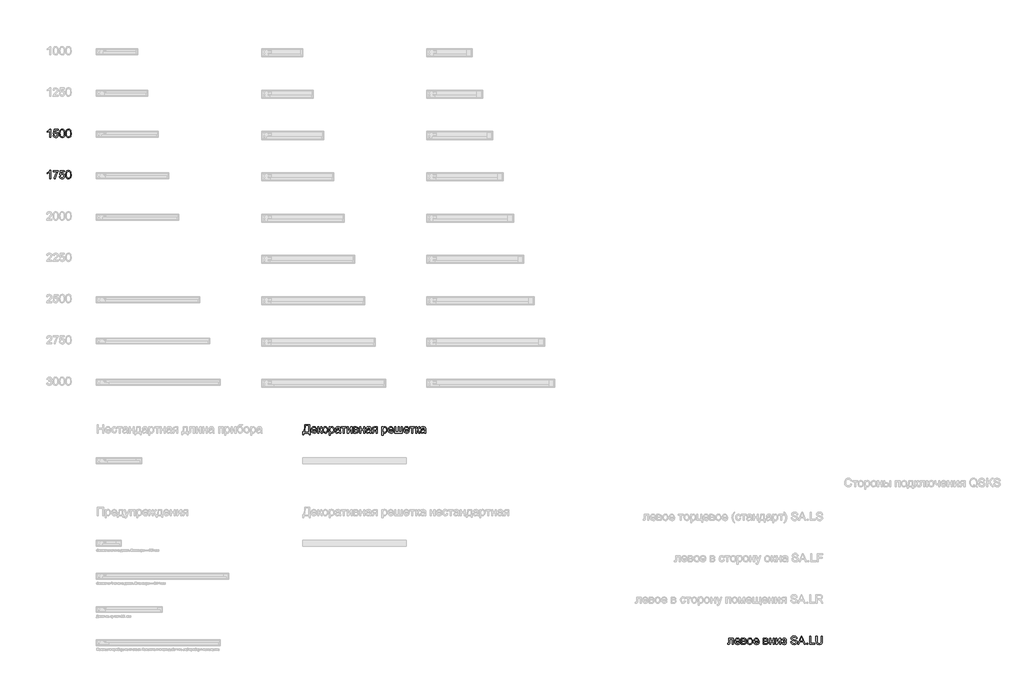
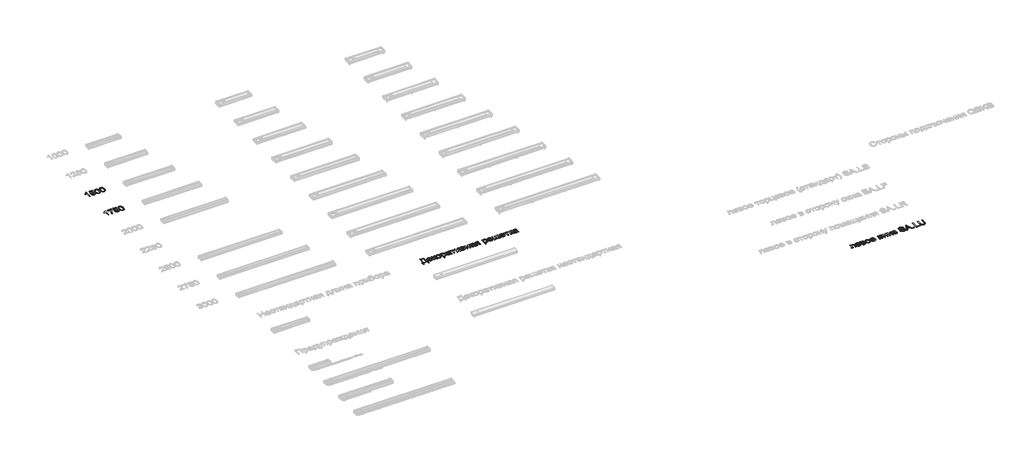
# One storey, part 4 of 17: 4 proxies.
"""IFC4 building model written with IfcOpenShell, lengths in millimetres."""

from ifc_helpers import new_model, si_unit, origin, origin_with_axes, place, context, project, spatial, polyline, outline, extrude, element, save

model = new_model("IFC4")

# Units and contexts
model_context = context("Model", 3, world=origin())
ifc_project = project(units=[si_unit("LENGTHUNIT", "METRE", prefix="MILLI")], contexts=[model_context])

# Site, building, storey
site = spatial("IfcSite", under=ifc_project)
building = spatial("IfcBuilding", under=site)
storey = spatial("IfcBuildingStorey", under=building, Name="Уровень 1", Elevation=0.0)

# Proxies
placement = place(None, origin())
element("IfcBuildingElementProxy", 1, Name="Текст модели 1", ObjectType="Текст модели 1", at=placement, inside=storey, context=model_context, shape_type="SweptSolid", body=[
    extrude(outline(polyline([(573.4509423, -453.2424702), (548.3368648, -453.2424702), (548.3368648, -296.6718931), (524.5471624, -313.6189903), (498.1087097, -326.2986564), (498.1087097, -302.558005), (534.9214347, -279.0626083), (548.3920471, -265.4877626), (557.2641345, -252.3298499), (573.4509423, -252.3298499), (573.4509423, -453.2424702)])), origin_with_axes(), (0.0, 0.0, 1.0), 2.0),
    extrude(outline(polyline([(633.0968765, -399.8750555), (658.210954, -396.7357958), (662.8217417, -411.8128262), (670.8660947, -422.6101628), (682.3072247, -429.10328), (697.1083436, -431.2676524), (715.1100359, -428.2571514), (728.5990424, -419.2256484), (737.0235401, -405.2154758), (739.831706, -387.2689658), (737.2013498, -370.3709195), (729.310281, -357.4459987), (716.097186, -349.2422302), (697.5007511, -346.5076407), (675.4523569, -350.8731737), (661.3502137, -362.2039392), (636.2361362, -359.0646795), (658.210954, -255.4691096), (755.5280045, -255.4691096), (755.5280045, -280.5831872), (678.5180402, -280.5831872), (667.7758859, -335.9126393), (685.7162645, -325.0233322), (704.5150345, -321.3935632), (727.9797744, -325.8939863), (747.459126, -339.3952555), (760.5741192, -359.9721217), (764.9457836, -385.6993359), (761.0094462, -410.8134135), (749.2004342, -432.297722), (738.7648482, -442.8344755), (726.5879542, -450.360728), (712.669752, -454.8764794), (697.0102418, -456.3817299), (672.343754, -452.5128376), (652.6927241, -440.9061607), (639.2221117, -422.9105997), (633.0968765, -399.8750555)])), origin_with_axes(), (0.0, 0.0, 1.0), 2.0),
    extrude(outline(polyline([(786.9206014, -354.4048409), (788.7661427, -322.2458231), (794.3027668, -296.5983167), (803.4752912, -277.0699141), (816.2285337, -263.2682079), (832.6544648, -255.0644394), (852.8450549, -252.3298499), (868.3206242, -253.9485307), (882.1775127, -258.8045731), (893.7657955, -266.7079046), (902.4355479, -277.468453), (914.2077717, -307.1933182), (918.7695085, -354.4048409), (916.9423612, -386.3799176), (911.4609195, -411.9661104), (902.3435774, -431.5129071), (889.608729, -445.3697956), (873.1460097, -453.6287463), (852.8450549, -456.3817299), (826.7499587, -451.599264), (806.9333819, -437.2518662), (798.1777905, -422.1227191), (791.9237965, -403.2718326), (786.9206014, -354.4048409)]), holes=[polyline([(812.0346789, -354.3557899), (814.9777349, -393.8601849), (823.8069028, -416.7240509), (836.9525527, -427.631752), (852.8450549, -431.2676524), (868.7375571, -427.6194893), (881.8832071, -416.6749999), (890.712375, -393.7988712), (893.6554309, -354.3557899), (890.8104768, -315.7404432), (882.2756145, -292.6987676), (869.1544901, -281.2576375), (852.5507493, -277.4439275), (836.8299254, -280.8039164), (824.1993102, -290.883883), (815.0758368, -315.3602985), (812.0346789, -354.3557899)])]), origin_with_axes(), (0.0, 0.0, 1.0), 2.0),
    extrude(outline(polyline([(940.7443263, -354.4048409), (942.5898677, -322.2458231), (948.1264917, -296.5983167), (957.2990161, -277.0699141), (970.0522586, -263.2682079), (986.4781897, -255.0644394), (1006.6687799, -252.3298499), (1022.1443491, -253.9485307), (1036.0012376, -258.8045731), (1047.5895204, -266.7079046), (1056.2592728, -277.468453), (1068.0314966, -307.1933182), (1072.5932334, -354.4048409), (1070.7660861, -386.3799176), (1065.2846444, -411.9661104), (1056.1673023, -431.5129071), (1043.4324539, -445.3697956), (1026.9697346, -453.6287463), (1006.6687799, -456.3817299), (980.5736837, -451.599264), (960.7571069, -437.2518662), (952.0015154, -422.1227191), (945.7475214, -403.2718326), (940.7443263, -354.4048409)]), holes=[polyline([(965.8584039, -354.3557899), (968.8014598, -393.8601849), (977.6306277, -416.7240509), (990.7762777, -427.631752), (1006.6687799, -431.2676524), (1022.561282, -427.6194893), (1035.706932, -416.6749999), (1044.5360999, -393.7988712), (1047.4791558, -354.3557899), (1044.6342018, -315.7404432), (1036.0993395, -292.6987676), (1022.978215, -281.2576375), (1006.3744743, -277.4439275), (990.6536503, -280.8039164), (978.0230352, -290.883883), (968.8995617, -315.3602985), (965.8584039, -354.3557899)])]), origin_with_axes(), (0.0, 0.0, 1.0), 2.0),
])
element("IfcBuildingElementProxy", 2, Name="Текст модели 1", ObjectType="Текст модели 1", at=placement, inside=storey, context=model_context, shape_type="SweptSolid", body=[
    extrude(outline(polyline([(573.4509423, -1453.2424702), (548.3368648, -1453.2424702), (548.3368648, -1296.6718931), (524.5471624, -1313.6189903), (498.1087097, -1326.2986564), (498.1087097, -1302.558005), (534.9214347, -1279.0626083), (548.3920471, -1265.4877626), (557.2641345, -1252.3298499), (573.4509423, -1252.3298499), (573.4509423, -1453.2424702)])), origin_with_axes(), (0.0, 0.0, 1.0), 2.0),
    extrude(outline(polyline([(633.0968765, -1280.5831872), (633.0968765, -1255.4691096), (764.9457836, -1255.4691096), (764.9457836, -1275.7761958), (746.153145, -1299.5597668), (727.5444474, -1329.8057981), (711.130779, -1363.7551749), (698.9232282, -1398.6487822), (689.6035509, -1453.2424702), (664.4894734, -1453.2424702), (667.2056688, -1427.3558405), (674.4713382, -1396.588643), (686.0902779, -1363.9759041), (701.8662841, -1332.5526504), (720.2849093, -1304.146029), (739.831706, -1280.5831872), (633.0968765, -1280.5831872)])), origin_with_axes(), (0.0, 0.0, 1.0), 2.0),
    extrude(outline(polyline([(786.9206014, -1399.8750555), (812.0346789, -1396.7357958), (816.6454666, -1411.8128262), (824.6898196, -1422.6101628), (836.1309496, -1429.10328), (850.9320686, -1431.2676524), (868.9337609, -1428.2571514), (882.4227673, -1419.2256484), (890.847265, -1405.2154758), (893.6554309, -1387.2689658), (891.0250747, -1370.3709195), (883.1340059, -1357.4459987), (869.9209109, -1349.2422302), (851.324476, -1346.5076407), (829.2760818, -1350.8731737), (815.1739386, -1362.2039392), (790.0598611, -1359.0646795), (812.0346789, -1255.4691096), (909.3517294, -1255.4691096), (909.3517294, -1280.5831872), (832.3417651, -1280.5831872), (821.5996108, -1335.9126393), (839.5399894, -1325.0233322), (858.3387594, -1321.3935632), (881.8034993, -1325.8939863), (901.282851, -1339.3952555), (914.3978441, -1359.9721217), (918.7695085, -1385.6993359), (914.8331711, -1410.8134135), (903.0241591, -1432.297722), (892.5885731, -1442.8344755), (880.4116791, -1450.360728), (866.493477, -1454.8764794), (850.8339667, -1456.3817299), (826.1674789, -1452.5128376), (806.516449, -1440.9061607), (793.0458366, -1422.9105997), (786.9206014, -1399.8750555)])), origin_with_axes(), (0.0, 0.0, 1.0), 2.0),
    extrude(outline(polyline([(940.7443263, -1354.4048409), (942.5898677, -1322.2458231), (948.1264917, -1296.5983167), (957.2990161, -1277.0699141), (970.0522586, -1263.2682079), (986.4781897, -1255.0644394), (1006.6687799, -1252.3298499), (1022.1443491, -1253.9485307), (1036.0012376, -1258.8045731), (1047.5895204, -1266.7079046), (1056.2592728, -1277.468453), (1068.0314966, -1307.1933182), (1072.5932334, -1354.4048409), (1070.7660861, -1386.3799176), (1065.2846444, -1411.9661104), (1056.1673023, -1431.5129071), (1043.4324539, -1445.3697956), (1026.9697346, -1453.6287463), (1006.6687799, -1456.3817299), (980.5736837, -1451.599264), (960.7571069, -1437.2518662), (952.0015154, -1422.1227191), (945.7475214, -1403.2718326), (940.7443263, -1354.4048409)]), holes=[polyline([(965.8584039, -1354.3557899), (968.8014598, -1393.8601849), (977.6306277, -1416.7240509), (990.7762777, -1427.631752), (1006.6687799, -1431.2676524), (1022.561282, -1427.6194893), (1035.706932, -1416.6749999), (1044.5360999, -1393.7988712), (1047.4791558, -1354.3557899), (1044.6342018, -1315.7404432), (1036.0993395, -1292.6987676), (1022.978215, -1281.2576375), (1006.3744743, -1277.4439275), (990.6536503, -1280.8039164), (978.0230352, -1290.883883), (968.8995617, -1315.3602985), (965.8584039, -1354.3557899)])]), origin_with_axes(), (0.0, 0.0, 1.0), 2.0),
])
element("IfcBuildingElementProxy", 3, Name="Текст модели 1", ObjectType="Текст модели 1", at=placement, inside=storey, context=model_context, shape_type="SweptSolid", body=[
    extrude(outline(polyline([(6722.8213885, -7407.3298499), (6842.1132568, -7407.3298499), (6842.1132568, -7583.1283927), (6860.9488149, -7583.1283927), (6860.9488149, -7655.3313656), (6835.8347374, -7655.3313656), (6835.8347374, -7608.2424702), (6707.12509, -7608.2424702), (6707.12509, -7655.3313656), (6682.0110125, -7655.3313656), (6682.0110125, -7583.1283927), (6697.7073109, -7583.1283927), (6708.6947198, -7560.3473002), (6716.5428691, -7528.3017127), (6721.2517586, -7486.9916303), (6722.8213885, -7436.417053), (6722.8213885, -7407.3298499)]), holes=[polyline([(6816.9991792, -7432.4439275), (6747.935466, -7432.4439275), (6747.935466, -7442.5484196), (6742.834169, -7511.3668782), (6735.2803254, -7551.1349219), (6722.8213885, -7583.1283927), (6816.9991792, -7583.1283927), (6816.9991792, -7432.4439275)])]), origin_with_axes(), (0.0, 0.0, 1.0), 2.0),
    extrude(outline(polyline([(6992.5034164, -7564.2928346), (7017.1269846, -7567.4320942), (7008.2548972, -7585.9856095), (6994.0975717, -7599.8547608), (6974.9738393, -7608.4999876), (6951.2025311, -7611.3817299), (6921.7351833, -7606.4091916), (6899.0613896, -7591.4915767), (6884.6036272, -7567.5976411), (6879.7843731, -7535.6961408), (6884.6526781, -7502.7216513), (6899.2575933, -7478.0612949), (6921.6248187, -7462.6838275), (6949.780054, -7457.558005), (6977.058504, -7462.6715648), (6998.8555122, -7478.012244), (7013.1477277, -7502.6235494), (7017.9117995, -7535.548988), (7017.7646467, -7542.3180167), (6904.8984506, -7542.3180167), (6909.2455895, -7561.1167867), (6919.3439503, -7574.936887), (6933.9182087, -7583.434961), (6951.6930404, -7586.2676524), (6976.3166086, -7581.0192026), (6985.4646076, -7574.2133857), (6992.5034164, -7564.2928346)]), holes=[polyline([(6904.8984506, -7517.2039392), (6992.797722, -7517.2039392), (6989.4009449, -7503.9356619), (6982.7422808, -7494.4443064), (6968.1005774, -7485.6151385), (6949.6819522, -7482.6720826), (6932.753249, -7485.020396), (6918.7553391, -7492.0653362), (6909.0248603, -7503.0466137), (6904.8984506, -7517.2039392)])]), origin_with_axes(), (0.0, 0.0, 1.0), 2.0),
    extrude(outline(polyline([(7043.0258771, -7460.6972647), (7068.1399546, -7460.6972647), (7068.1399546, -7523.4824586), (7084.9644245, -7518.9697728), (7098.7477366, -7492.6784728), (7110.2011294, -7469.9924165), (7120.3056215, -7462.6102511), (7138.6751958, -7460.6972647), (7143.4821872, -7460.6972647), (7143.4821872, -7485.9584951), (7136.7131585, -7485.8113423), (7124.4504253, -7488.4600926), (7115.8174612, -7504.9902569), (7105.6884436, -7522.8693219), (7091.4881986, -7531.6249134), (7107.3316498, -7541.3983117), (7122.8807955, -7561.9874407), (7149.7607066, -7608.2424702), (7121.2130638, -7608.2424702), (7094.8727129, -7562.9684594), (7081.6289611, -7543.8140702), (7068.1399546, -7539.178757), (7068.1399546, -7608.2424702), (7043.0258771, -7608.2424702), (7043.0258771, -7460.6972647)])), origin_with_axes(), (0.0, 0.0, 1.0), 2.0),
    extrude(outline(polyline([(7159.1784857, -7534.4698675), (7164.6108765, -7498.8956785), (7171.401365, -7485.0725126), (7180.9080489, -7473.8919656), (7201.0434567, -7461.6414952), (7225.1519901, -7457.558005), (7251.5352606, -7462.5305433), (7272.6087675, -7477.4481582), (7286.4227364, -7501.1336274), (7291.0273927, -7532.4097283), (7288.991779, -7557.7813232), (7282.8849379, -7577.095128), (7272.884679, -7591.5590218), (7259.168812, -7602.3808838), (7242.8777709, -7609.1315184), (7225.1519901, -7611.3817299), (7198.4498887, -7606.4275857), (7177.4009072, -7591.5651531), (7163.734091, -7567.3830433), (7159.1784857, -7534.4698675)]), holes=[polyline([(7184.2925632, -7534.4208165), (7187.198831, -7557.1497925), (7195.9176343, -7573.3427316), (7209.0387588, -7583.0364222), (7225.1519901, -7586.2676524), (7241.1916451, -7583.0180281), (7254.2882442, -7573.2691552), (7263.0070474, -7556.8616183), (7265.9133152, -7533.6360016), (7262.9886533, -7511.5692133), (7254.2146678, -7495.5970033), (7241.0996746, -7485.9033128), (7225.1519901, -7482.6720826), (7209.0387588, -7485.89105), (7195.9176343, -7495.5479524), (7187.198831, -7511.7041033), (7184.2925632, -7534.4208165)])]), origin_with_axes(), (0.0, 0.0, 1.0), 2.0),
    extrude(outline(polyline([(7319.28073, -7664.7491447), (7319.28073, -7460.6972647), (7344.3948075, -7460.6972647), (7344.3948075, -7485.3208329), (7361.7588377, -7464.498712), (7372.451941, -7459.2931818), (7385.2051835, -7457.558005), (7402.189069, -7459.9860262), (7417.0392388, -7467.2700897), (7429.1302937, -7478.9687371), (7437.8368343, -7494.6405101), (7443.0975468, -7513.1449745), (7444.8511177, -7533.341696), (7442.8706863, -7554.8198732), (7436.929392, -7574.0294447), (7427.2173074, -7589.9955233), (7413.9245046, -7601.7432217), (7398.442804, -7608.9721029), (7382.1640257, -7611.3817299), (7370.6186624, -7609.7691805), (7360.3118352, -7604.9315323), (7344.3948075, -7588.6220972), (7344.3948075, -7664.7491447), (7319.28073, -7664.7491447)]), holes=[polyline([(7344.3948075, -7535.6470899), (7347.1110029, -7558.161468), (7355.2595891, -7573.9068174), (7367.283199, -7583.1774436), (7381.6244654, -7586.2676524), (7396.1987238, -7583.067079), (7408.528902, -7573.465359), (7416.9350056, -7557.1436611), (7419.7370401, -7533.7831544), (7417.0024506, -7511.3914037), (7408.7986821, -7495.4253251), (7396.7934664, -7485.8603932), (7382.654535, -7482.6720826), (7368.4604214, -7486.0627283), (7355.9953531, -7496.2346654), (7347.2949439, -7512.869063), (7344.3948075, -7535.6470899)])]), origin_with_axes(), (0.0, 0.0, 1.0), 2.0),
    extrude(outline(polyline([(7567.2822457, -7589.4069121), (7542.9284576, -7606.4275857), (7516.024021, -7611.3817299), (7495.0363532, -7608.4018858), (7479.5546525, -7599.4623533), (7470.0081148, -7585.8875077), (7466.8259355, -7569.0017241), (7471.6329269, -7549.1360964), (7484.2635421, -7534.7151221), (7501.8483014, -7526.4745655), (7523.5778646, -7522.6976436), (7567.1350929, -7514.0646795), (7567.2822457, -7508.4728732), (7565.5532003, -7497.264735), (7560.3660641, -7489.9316206), (7548.7655186, -7484.4869671), (7532.6032362, -7482.6720826), (7517.6427018, -7483.8799618), (7507.1948531, -7487.5035994), (7500.0702051, -7494.2051831), (7495.0792727, -7504.6469004), (7469.9651952, -7501.5076407), (7480.8299768, -7476.9821744), (7490.0883403, -7468.7293549), (7502.7066928, -7462.6102511), (7535.8405978, -7457.558005), (7566.2767015, -7462.0216399), (7583.4690534, -7473.229778), (7591.1700499, -7490.2749771), (7592.3963232, -7512.249795), (7592.3963232, -7543.4952391), (7593.6716474, -7587.1260437), (7598.6748426, -7608.2424702), (7573.560765, -7608.2424702), (7567.2822457, -7589.4069121)]), holes=[polyline([(7567.2822457, -7539.178757), (7526.7661753, -7546.8797535), (7505.1592394, -7550.9509809), (7495.3735783, -7557.5728568), (7491.940013, -7567.2358905), (7493.8100799, -7574.703895), (7499.4202803, -7580.8229989), (7508.647987, -7584.906489), (7521.3705727, -7586.2676524), (7534.8595791, -7584.7654676), (7546.7789558, -7580.2589131), (7563.1619673, -7565.7153116), (7567.1350929, -7546.2911423), (7567.2822457, -7539.178757)])]), origin_with_axes(), (0.0, 0.0, 1.0), 2.0),
    extrude(outline(polyline([(7614.371141, -7460.6972647), (7733.6630093, -7460.6972647), (7733.6630093, -7485.8113423), (7686.574114, -7485.8113423), (7686.574114, -7608.2424702), (7661.4600364, -7608.2424702), (7661.4600364, -7485.8113423), (7614.371141, -7485.8113423), (7614.371141, -7460.6972647)])), origin_with_axes(), (0.0, 0.0, 1.0), 2.0),
    extrude(outline(polyline([(7755.6378272, -7460.6972647), (7780.7519047, -7460.6972647), (7780.7519047, -7573.2201043), (7842.457978, -7460.6972647), (7874.9296955, -7460.6972647), (7874.9296955, -7608.2424702), (7849.815618, -7608.2424702), (7849.815618, -7496.4063437), (7788.5019521, -7608.2424702), (7755.6378272, -7608.2424702), (7755.6378272, -7460.6972647)])), origin_with_axes(), (0.0, 0.0, 1.0), 2.0),
    extrude(outline(polyline([(7912.6008118, -7460.6972647), (7967.9302639, -7460.6972647), (7998.2682657, -7464.0572536), (8015.3379903, -7476.3690377), (8020.6906733, -7486.2098811), (8022.474901, -7497.8288208), (8018.1584189, -7515.2664273), (8005.1599218, -7527.7008388), (8014.4550735, -7532.9186317), (8022.0334426, -7541.3124726), (8027.073426, -7552.2201737), (8028.7534204, -7564.9795476), (8024.498252, -7584.1216741), (8014.3814971, -7597.5984179), (7998.3663676, -7605.5814571), (7976.4160752, -7608.2424702), (7912.6008118, -7608.2424702), (7912.6008118, -7460.6972647)]), holes=[polyline([(7937.7148893, -7517.2039392), (7962.5346613, -7517.2039392), (7983.0134257, -7515.9286149), (7992.970765, -7510.8273179), (7997.3608235, -7501.6057426), (7995.4355744, -7494.1132126), (7989.6598271, -7489.2939585), (7963.3194762, -7485.8113423), (7937.7148893, -7485.8113423), (7937.7148893, -7517.2039392)]), polyline([(7937.7148893, -7583.1283927), (7968.5188751, -7583.1283927), (7985.3065568, -7581.9940899), (7995.8402446, -7578.5911814), (8001.4933646, -7572.4046326), (8003.6393429, -7562.9194084), (7999.3473863, -7550.8283535), (7988.1637736, -7543.7895447), (7966.0663284, -7542.3180167), (7937.7148893, -7542.3180167), (7937.7148893, -7583.1283927)])]), origin_with_axes(), (0.0, 0.0, 1.0), 2.0),
    extrude(outline(polyline([(8060.1460173, -7460.6972647), (8085.2600949, -7460.6972647), (8085.2600949, -7517.2039392), (8151.1845484, -7517.2039392), (8151.1845484, -7460.6972647), (8176.2986259, -7460.6972647), (8176.2986259, -7608.2424702), (8151.1845484, -7608.2424702), (8151.1845484, -7542.3180167), (8085.2600949, -7542.3180167), (8085.2600949, -7608.2424702), (8060.1460173, -7608.2424702), (8060.1460173, -7460.6972647)])), origin_with_axes(), (0.0, 0.0, 1.0), 2.0),
    extrude(outline(polyline([(8308.147533, -7589.4069121), (8283.7937449, -7606.4275857), (8256.8893083, -7611.3817299), (8235.9016405, -7608.4018858), (8220.4199399, -7599.4623533), (8210.8734021, -7585.8875077), (8207.6912229, -7569.0017241), (8212.4982143, -7549.1360964), (8225.1288294, -7534.7151221), (8242.7135888, -7526.4745655), (8264.443152, -7522.6976436), (8308.0003802, -7514.0646795), (8308.147533, -7508.4728732), (8306.4184876, -7497.264735), (8301.2313515, -7489.9316206), (8289.6308059, -7484.4869671), (8273.4685236, -7482.6720826), (8258.5079891, -7483.8799618), (8248.0601405, -7487.5035994), (8240.9354925, -7494.2051831), (8235.9445601, -7504.6469004), (8210.8304826, -7501.5076407), (8221.6952641, -7476.9821744), (8230.9536277, -7468.7293549), (8243.5719801, -7462.6102511), (8276.7058852, -7457.558005), (8307.1419889, -7462.0216399), (8324.3343408, -7473.229778), (8332.0353372, -7490.2749771), (8333.2616105, -7512.249795), (8333.2616105, -7543.4952391), (8334.5369348, -7587.1260437), (8339.5401299, -7608.2424702), (8314.4260524, -7608.2424702), (8308.147533, -7589.4069121)]), holes=[polyline([(8308.147533, -7539.178757), (8267.6314626, -7546.8797535), (8246.0245268, -7550.9509809), (8236.2388657, -7557.5728568), (8232.8053004, -7567.2358905), (8234.6753672, -7574.703895), (8240.2855676, -7580.8229989), (8249.5132743, -7584.906489), (8262.23586, -7586.2676524), (8275.7248665, -7584.7654676), (8287.6442431, -7580.2589131), (8304.0272547, -7565.7153116), (8308.0003802, -7546.2911423), (8308.147533, -7539.178757)])]), origin_with_axes(), (0.0, 0.0, 1.0), 2.0),
    extrude(outline(polyline([(8480.8068161, -7460.6972647), (8480.8068161, -7608.2424702), (8455.6927385, -7608.2424702), (8455.6927385, -7551.7357958), (8442.0075283, -7551.7357958), (8423.3681739, -7554.9241064), (8405.8569909, -7576.359364), (8385.8442104, -7608.2424702), (8356.8060582, -7608.2424702), (8382.0182376, -7567.9226036), (8393.1527994, -7553.4525784), (8403.4044443, -7547.0269063), (8386.2366179, -7541.7661937), (8374.1700884, -7531.7720662), (8367.0331777, -7518.4792634), (8364.6542075, -7503.3225252), (8367.9038318, -7486.1301733), (8377.6527046, -7472.5185395), (8393.5574696, -7463.6525834), (8415.27477, -7460.6972647), (8480.8068161, -7460.6972647)]), holes=[polyline([(8455.6927385, -7485.8113423), (8422.583359, -7485.8113423), (8405.4829776, -7487.2644761), (8395.7770243, -7491.6238778), (8389.768285, -7505.2355116), (8391.9817083, -7514.8065748), (8398.6219784, -7521.4468449), (8410.8908429, -7525.3279999), (8429.9900498, -7526.6217183), (8455.6927385, -7526.6217183), (8455.6927385, -7485.8113423)])]), origin_with_axes(), (0.0, 0.0, 1.0), 2.0),
    extrude(outline(polyline([(8596.9594247, -7664.7491447), (8596.9594247, -7460.6972647), (8622.0735022, -7460.6972647), (8622.0735022, -7485.3208329), (8639.4375324, -7464.498712), (8650.1306357, -7459.2931818), (8662.8838782, -7457.558005), (8679.8677637, -7459.9860262), (8694.7179335, -7467.2700897), (8706.8089884, -7478.9687371), (8715.515529, -7494.6405101), (8720.7762415, -7513.1449745), (8722.5298124, -7533.341696), (8720.549381, -7554.8198732), (8714.6080867, -7574.0294447), (8704.8960021, -7589.9955233), (8691.6031993, -7601.7432217), (8676.1214987, -7608.9721029), (8659.8427204, -7611.3817299), (8648.2973571, -7609.7691805), (8637.9905299, -7604.9315323), (8622.0735022, -7588.6220972), (8622.0735022, -7664.7491447), (8596.9594247, -7664.7491447)]), holes=[polyline([(8622.0735022, -7535.6470899), (8624.7896976, -7558.161468), (8632.9382838, -7573.9068174), (8644.9618937, -7583.1774436), (8659.3031601, -7586.2676524), (8673.8774185, -7583.067079), (8686.2075967, -7573.465359), (8694.6137003, -7557.1436611), (8697.4157348, -7533.7831544), (8694.6811453, -7511.3914037), (8686.4773768, -7495.4253251), (8674.4721611, -7485.8603932), (8660.3332297, -7482.6720826), (8646.1391161, -7486.0627283), (8633.6740478, -7496.2346654), (8624.9736386, -7512.869063), (8622.0735022, -7535.6470899)])]), origin_with_axes(), (0.0, 0.0, 1.0), 2.0),
    extrude(outline(polyline([(8854.0844139, -7564.2928346), (8878.7079821, -7567.4320942), (8869.8358946, -7585.9856095), (8855.6785692, -7599.8547608), (8836.5548368, -7608.4999876), (8812.7835285, -7611.3817299), (8783.3161807, -7606.4091916), (8760.6423871, -7591.4915767), (8746.1846247, -7567.5976411), (8741.3653705, -7535.6961408), (8746.2336756, -7502.7216513), (8760.8385908, -7478.0612949), (8783.2058161, -7462.6838275), (8811.3610515, -7457.558005), (8838.6395014, -7462.6715648), (8860.4365096, -7478.012244), (8874.7287251, -7502.6235494), (8879.492797, -7535.548988), (8879.3456442, -7542.3180167), (8766.4794481, -7542.3180167), (8770.826587, -7561.1167867), (8780.9249477, -7574.936887), (8795.4992061, -7583.434961), (8813.2740379, -7586.2676524), (8837.8976061, -7581.0192026), (8847.045605, -7574.2133857), (8854.0844139, -7564.2928346)]), holes=[polyline([(8766.4794481, -7517.2039392), (8854.3787194, -7517.2039392), (8850.9819424, -7503.9356619), (8844.3232782, -7494.4443064), (8829.6815748, -7485.6151385), (8811.2629496, -7482.6720826), (8794.3342465, -7485.020396), (8780.3363366, -7492.0653362), (8770.6058578, -7503.0466137), (8766.4794481, -7517.2039392)])]), origin_with_axes(), (0.0, 0.0, 1.0), 2.0),
    extrude(outline(polyline([(8904.6068745, -7460.6972647), (8929.7209521, -7460.6972647), (8929.7209521, -7583.1283927), (8986.2276265, -7583.1283927), (8986.2276265, -7460.6972647), (9011.3417041, -7460.6972647), (9011.3417041, -7583.1283927), (9067.8483785, -7583.1283927), (9067.8483785, -7460.6972647), (9092.9624561, -7460.6972647), (9092.9624561, -7608.2424702), (8904.6068745, -7608.2424702), (8904.6068745, -7460.6972647)])), origin_with_axes(), (0.0, 0.0, 1.0), 2.0),
    extrude(outline(polyline([(9230.7955769, -7564.2928346), (9255.4191451, -7567.4320942), (9246.5470577, -7585.9856095), (9232.3897322, -7599.8547608), (9213.2659998, -7608.4999876), (9189.4946916, -7611.3817299), (9160.0273438, -7606.4091916), (9137.3535501, -7591.4915767), (9122.8957877, -7567.5976411), (9118.0765336, -7535.6961408), (9122.9448387, -7502.7216513), (9137.5497539, -7478.0612949), (9159.9169792, -7462.6838275), (9188.0722145, -7457.558005), (9215.3506645, -7462.6715648), (9237.1476727, -7478.012244), (9251.4398882, -7502.6235494), (9256.20396, -7535.548988), (9256.0568072, -7542.3180167), (9143.1906111, -7542.3180167), (9147.53775, -7561.1167867), (9157.6361108, -7574.936887), (9172.2103692, -7583.434961), (9189.9852009, -7586.2676524), (9214.6087691, -7581.0192026), (9223.7567681, -7574.2133857), (9230.7955769, -7564.2928346)]), holes=[polyline([(9143.1906111, -7517.2039392), (9231.0898825, -7517.2039392), (9227.6931054, -7503.9356619), (9221.0344413, -7494.4443064), (9206.3927379, -7485.6151385), (9187.9741127, -7482.6720826), (9171.0454095, -7485.020396), (9157.0474996, -7492.0653362), (9147.3170208, -7503.0466137), (9143.1906111, -7517.2039392)])]), origin_with_axes(), (0.0, 0.0, 1.0), 2.0),
    extrude(outline(polyline([(9268.7609988, -7460.6972647), (9388.0528671, -7460.6972647), (9388.0528671, -7485.8113423), (9340.9639717, -7485.8113423), (9340.9639717, -7608.2424702), (9315.8498942, -7608.2424702), (9315.8498942, -7485.8113423), (9268.7609988, -7485.8113423), (9268.7609988, -7460.6972647)])), origin_with_axes(), (0.0, 0.0, 1.0), 2.0),
    extrude(outline(polyline([(9410.027685, -7460.6972647), (9435.1417625, -7460.6972647), (9435.1417625, -7523.4824586), (9451.9662324, -7518.9697728), (9465.7495445, -7492.6784728), (9477.2029373, -7469.9924165), (9487.3074294, -7462.6102511), (9505.6770037, -7460.6972647), (9510.4839951, -7460.6972647), (9510.4839951, -7485.9584951), (9503.7149664, -7485.8113423), (9491.4522332, -7488.4600926), (9482.8192691, -7504.9902569), (9472.6902515, -7522.8693219), (9458.4900065, -7531.6249134), (9474.3334577, -7541.3983117), (9489.8826034, -7561.9874407), (9516.7625145, -7608.2424702), (9488.2148717, -7608.2424702), (9461.8745208, -7562.9684594), (9448.630769, -7543.8140702), (9435.1417625, -7539.178757), (9435.1417625, -7608.2424702), (9410.027685, -7608.2424702), (9410.027685, -7460.6972647)])), origin_with_axes(), (0.0, 0.0, 1.0), 2.0),
    extrude(outline(polyline([(9626.6366037, -7589.4069121), (9602.2828156, -7606.4275857), (9575.3783791, -7611.3817299), (9554.3907112, -7608.4018858), (9538.9090106, -7599.4623533), (9529.3624728, -7585.8875077), (9526.1802936, -7569.0017241), (9530.987285, -7549.1360964), (9543.6179001, -7534.7151221), (9561.2026595, -7526.4745655), (9582.9322227, -7522.6976436), (9626.4894509, -7514.0646795), (9626.6366037, -7508.4728732), (9624.9075583, -7497.264735), (9619.7204222, -7489.9316206), (9608.1198766, -7484.4869671), (9591.9575943, -7482.6720826), (9576.9970598, -7483.8799618), (9566.5492112, -7487.5035994), (9559.4245632, -7494.2051831), (9554.4336308, -7504.6469004), (9529.3195533, -7501.5076407), (9540.1843349, -7476.9821744), (9549.4426984, -7468.7293549), (9562.0610508, -7462.6102511), (9595.1949559, -7457.558005), (9625.6310596, -7462.0216399), (9642.8234115, -7473.229778), (9650.5244079, -7490.2749771), (9651.7506813, -7512.249795), (9651.7506813, -7543.4952391), (9653.0260055, -7587.1260437), (9658.0292006, -7608.2424702), (9632.9151231, -7608.2424702), (9626.6366037, -7589.4069121)]), holes=[polyline([(9626.6366037, -7539.178757), (9586.1205333, -7546.8797535), (9564.5135975, -7550.9509809), (9554.7279364, -7557.5728568), (9551.2943711, -7567.2358905), (9553.1644379, -7574.703895), (9558.7746383, -7580.8229989), (9568.0023451, -7584.906489), (9580.7249307, -7586.2676524), (9594.2139372, -7584.7654676), (9606.1333139, -7580.2589131), (9622.5163254, -7565.7153116), (9626.4894509, -7546.2911423), (9626.6366037, -7539.178757)])]), origin_with_axes(), (0.0, 0.0, 1.0), 2.0),
])
element("IfcBuildingElementProxy", 4, Name="Текст модели 1", ObjectType="Текст модели 1", at=placement, inside=storey, context=model_context, shape_type="SweptSolid", body=[
    extrude(outline(polyline([(16993.4906969, -12578.6972647), (17106.5040458, -12578.6972647), (17106.5040458, -12726.0953174), (17081.3899682, -12726.0953174), (17081.3899682, -12603.8113423), (17018.6047744, -12603.8113423), (17018.6047744, -12674.1994307), (17016.9125172, -12706.6711481), (17007.6173655, -12720.3808838), (16998.3222137, -12724.7770736), (16985.6425476, -12726.2424702), (16965.2373596, -12724.967146), (16965.2373596, -12701.1283927), (16976.4700232, -12701.1283927), (16987.8253141, -12699.5832883), (16992.3625254, -12694.6781951), (16993.4906969, -12672.7769536), (16993.4906969, -12578.6972647)])), origin_with_axes(), (0.0, 0.0, 1.0), 2.0),
    extrude(outline(polyline([(17247.4764263, -12682.2928346), (17272.0999945, -12685.4320942), (17263.2279071, -12703.9856095), (17249.0705816, -12717.8547608), (17229.9468493, -12726.4999876), (17206.175541, -12729.3817299), (17176.7081932, -12724.4091916), (17154.0343996, -12709.4915767), (17139.5766372, -12685.5976411), (17134.757383, -12653.6961408), (17139.6256881, -12620.7216513), (17154.2306033, -12596.0612949), (17176.5978286, -12580.6838275), (17204.753064, -12575.558005), (17232.0315139, -12580.6715648), (17253.8285221, -12596.012244), (17268.1207376, -12620.6235494), (17272.8848095, -12653.548988), (17272.7376567, -12660.3180167), (17159.8714606, -12660.3180167), (17164.2185995, -12679.1167867), (17174.3169602, -12692.936887), (17188.8912186, -12701.434961), (17206.6660503, -12704.2676524), (17231.2896185, -12699.0192026), (17240.4376175, -12692.2133857), (17247.4764263, -12682.2928346)]), holes=[polyline([(17159.8714606, -12635.2039392), (17247.7707319, -12635.2039392), (17244.3739548, -12621.9356619), (17237.7152907, -12612.4443064), (17223.0735873, -12603.6151385), (17204.6549621, -12600.6720826), (17187.726259, -12603.020396), (17173.728349, -12610.0653362), (17163.9978703, -12621.0466137), (17159.8714606, -12635.2039392)])]), origin_with_axes(), (0.0, 0.0, 1.0), 2.0),
    extrude(outline(polyline([(17297.998887, -12578.6972647), (17353.3283391, -12578.6972647), (17383.666341, -12582.0572536), (17400.7360655, -12594.3690377), (17406.0887486, -12604.2098811), (17407.8729762, -12615.8288208), (17403.5564942, -12633.2664273), (17390.557997, -12645.7008388), (17399.8531487, -12650.9186317), (17407.4315178, -12659.3124726), (17412.4715012, -12670.2201737), (17414.1514956, -12682.9795476), (17409.8963272, -12702.1216741), (17399.7795723, -12715.5984179), (17383.7644428, -12723.5814571), (17361.8141504, -12726.2424702), (17297.998887, -12726.2424702), (17297.998887, -12578.6972647)]), holes=[polyline([(17323.1129645, -12635.2039392), (17347.9327365, -12635.2039392), (17368.4115009, -12633.9286149), (17378.3688402, -12628.8273179), (17382.7588987, -12619.6057426), (17380.8336496, -12612.1132126), (17375.0579023, -12607.2939585), (17348.7175514, -12603.8113423), (17323.1129645, -12603.8113423), (17323.1129645, -12635.2039392)]), polyline([(17323.1129645, -12701.1283927), (17353.9169503, -12701.1283927), (17370.704632, -12699.9940899), (17381.2383198, -12696.5911814), (17386.8914398, -12690.4046326), (17389.0374181, -12680.9194084), (17384.7454615, -12668.8283535), (17373.5618488, -12661.7895447), (17351.4644036, -12660.3180167), (17323.1129645, -12660.3180167), (17323.1129645, -12701.1283927)])]), origin_with_axes(), (0.0, 0.0, 1.0), 2.0),
    extrude(outline(polyline([(17439.2655732, -12652.4698675), (17444.697964, -12616.8956785), (17451.4884524, -12603.0725126), (17460.9951363, -12591.8919656), (17481.1305442, -12579.6414952), (17505.2390776, -12575.558005), (17531.622348, -12580.5305433), (17552.695855, -12595.4481582), (17566.5098239, -12619.1336274), (17571.1144802, -12650.4097283), (17569.0788665, -12675.7813232), (17562.9720254, -12695.095128), (17552.9717665, -12709.5590218), (17539.2558994, -12720.3808838), (17522.9648584, -12727.1315184), (17505.2390776, -12729.3817299), (17478.5369761, -12724.4275857), (17457.4879947, -12709.5651531), (17443.8211785, -12685.3830433), (17439.2655732, -12652.4698675)]), holes=[polyline([(17464.3796507, -12652.4208165), (17467.2859185, -12675.1497925), (17476.0047217, -12691.3427316), (17489.1258462, -12701.0364222), (17505.2390776, -12704.2676524), (17521.2787326, -12701.0180281), (17534.3753316, -12691.2691552), (17543.0941349, -12674.8616183), (17546.0004027, -12651.6360016), (17543.0757408, -12629.5692133), (17534.3017552, -12613.5970033), (17521.1867621, -12603.9033128), (17505.2390776, -12600.6720826), (17489.1258462, -12603.89105), (17476.0047217, -12613.5479524), (17467.2859185, -12629.7041033), (17464.3796507, -12652.4208165)])]), origin_with_axes(), (0.0, 0.0, 1.0), 2.0),
    extrude(outline(polyline([(17702.6690817, -12682.2928346), (17727.2926499, -12685.4320942), (17718.4205625, -12703.9856095), (17704.263237, -12717.8547608), (17685.1395046, -12726.4999876), (17661.3681964, -12729.3817299), (17631.9008486, -12724.4091916), (17609.2270549, -12709.4915767), (17594.7692925, -12685.5976411), (17589.9500384, -12653.6961408), (17594.8183435, -12620.7216513), (17609.4232587, -12596.0612949), (17631.790484, -12580.6838275), (17659.9457193, -12575.558005), (17687.2241693, -12580.6715648), (17709.0211775, -12596.012244), (17723.313393, -12620.6235494), (17728.0774648, -12653.548988), (17727.930312, -12660.3180167), (17615.0641159, -12660.3180167), (17619.4112548, -12679.1167867), (17629.5096156, -12692.936887), (17644.083874, -12701.434961), (17661.8587057, -12704.2676524), (17686.4822739, -12699.0192026), (17695.6302729, -12692.2133857), (17702.6690817, -12682.2928346)]), holes=[polyline([(17615.0641159, -12635.2039392), (17702.9633873, -12635.2039392), (17699.5666102, -12621.9356619), (17692.9079461, -12612.4443064), (17678.2662427, -12603.6151385), (17659.8476175, -12600.6720826), (17642.9189143, -12603.020396), (17628.9210044, -12610.0653362), (17619.1905256, -12621.0466137), (17615.0641159, -12635.2039392)])]), origin_with_axes(), (0.0, 0.0, 1.0), 2.0),
    extrude(outline(polyline([(17831.6730347, -12578.6972647), (17887.0024868, -12578.6972647), (17917.3404886, -12582.0572536), (17934.4102132, -12594.3690377), (17939.7628962, -12604.2098811), (17941.5471239, -12615.8288208), (17937.2306418, -12633.2664273), (17924.2321447, -12645.7008388), (17933.5272964, -12650.9186317), (17941.1056655, -12659.3124726), (17946.1456488, -12670.2201737), (17947.8256433, -12682.9795476), (17943.5704749, -12702.1216741), (17933.45372, -12715.5984179), (17917.4385905, -12723.5814571), (17895.4882981, -12726.2424702), (17831.6730347, -12726.2424702), (17831.6730347, -12578.6972647)]), holes=[polyline([(17856.7871122, -12635.2039392), (17881.6068842, -12635.2039392), (17902.0856486, -12633.9286149), (17912.0429879, -12628.8273179), (17916.4330464, -12619.6057426), (17914.5077973, -12612.1132126), (17908.7320499, -12607.2939585), (17882.3916991, -12603.8113423), (17856.7871122, -12603.8113423), (17856.7871122, -12635.2039392)]), polyline([(17856.7871122, -12701.1283927), (17887.5910979, -12701.1283927), (17904.3787797, -12699.9940899), (17914.9124675, -12696.5911814), (17920.5655874, -12690.4046326), (17922.7115658, -12680.9194084), (17918.4196091, -12668.8283535), (17907.2359965, -12661.7895447), (17885.1385513, -12660.3180167), (17856.7871122, -12660.3180167), (17856.7871122, -12701.1283927)])]), origin_with_axes(), (0.0, 0.0, 1.0), 2.0),
    extrude(outline(polyline([(17979.2182402, -12578.6972647), (18004.3323177, -12578.6972647), (18004.3323177, -12635.2039392), (18070.2567713, -12635.2039392), (18070.2567713, -12578.6972647), (18095.3708488, -12578.6972647), (18095.3708488, -12726.2424702), (18070.2567713, -12726.2424702), (18070.2567713, -12660.3180167), (18004.3323177, -12660.3180167), (18004.3323177, -12726.2424702), (17979.2182402, -12726.2424702), (17979.2182402, -12578.6972647)])), origin_with_axes(), (0.0, 0.0, 1.0), 2.0),
    extrude(outline(polyline([(18133.0419651, -12578.6972647), (18158.1560427, -12578.6972647), (18158.1560427, -12691.2201043), (18219.862116, -12578.6972647), (18252.3338334, -12578.6972647), (18252.3338334, -12726.2424702), (18227.2197559, -12726.2424702), (18227.2197559, -12614.4063437), (18165.90609, -12726.2424702), (18133.0419651, -12726.2424702), (18133.0419651, -12578.6972647)])), origin_with_axes(), (0.0, 0.0, 1.0), 2.0),
    extrude(outline(polyline([(18324.5368063, -12660.3180167), (18324.5368063, -12635.2039392), (18344.3533832, -12634.2229205), (18354.3597734, -12628.9989962), (18359.068663, -12618.0851637), (18357.4929018, -12610.9421216), (18352.7656181, -12605.4054976), (18336.5052339, -12600.6720826), (18319.7052895, -12605.3809721), (18308.8405079, -12619.5076407), (18280.5871707, -12616.368381), (18288.0797006, -12598.5138415), (18299.4717797, -12585.760599), (18314.763408, -12578.1086535), (18333.9545854, -12575.558005), (18354.9483846, -12578.6666079), (18370.8408868, -12587.9924165), (18380.8472771, -12601.6347071), (18384.1827405, -12617.6927562), (18379.4370628, -12633.2909528), (18365.2000295, -12645.3574822), (18381.8037703, -12661.0047298), (18387.3220002, -12683.5191079), (18383.8209899, -12702.0051781), (18373.3179589, -12716.6530129), (18356.5241458, -12726.1995507), (18334.1507892, -12729.3817299), (18312.2679418, -12726.438674), (18295.5231797, -12717.6095061), (18283.9165027, -12702.8942263), (18277.447911, -12682.2928346), (18305.7012482, -12679.1535749), (18309.9318911, -12689.7731018), (18317.0320136, -12697.6948274), (18326.1800126, -12702.6244462), (18336.5542849, -12704.2676524), (18346.658777, -12702.6918912), (18354.8993337, -12697.9646076), (18360.3807754, -12690.7847773), (18362.2079227, -12681.8513762), (18357.6707114, -12668.6566753), (18348.0076776, -12661.593341), (18329.4418996, -12660.1708639), (18324.5368063, -12660.3180167)])), origin_with_axes(), (0.0, 0.0, 1.0), 2.0),
    extrude(outline(polyline([(18490.91757, -12657.178757), (18516.0316476, -12657.178757), (18524.1250515, -12682.31736), (18532.2552436, -12691.2078416), (18543.8925773, -12698.2098622), (18558.1173478, -12702.7532049), (18574.00985, -12704.2676524), (18600.252099, -12699.6813902), (18617.1991962, -12687.0753005), (18622.7664771, -12670.2263051), (18618.5971478, -12654.5545321), (18612.245052, -12648.3557205), (18601.5274233, -12643.1501903), (18564.9599529, -12633.5607329), (18525.5965794, -12621.1753724), (18513.094723, -12612.7263493), (18504.2348983, -12602.4869671), (18498.9557916, -12590.677955), (18497.1960894, -12577.5200423), (18499.3727246, -12562.8108939), (18505.90263, -12549.0950268), (18516.6141274, -12537.4699558), (18531.3355386, -12529.0331954), (18549.0061371, -12523.9012415), (18568.5651965, -12522.1905903), (18589.7551994, -12523.9809493), (18608.296452, -12529.3520264), (18623.5267666, -12538.193457), (18634.7839556, -12550.3948766), (18641.9086036, -12565.1959955), (18644.741295, -12581.8365244), (18619.6272174, -12581.8365244), (18615.0164297, -12566.8514645), (18605.4024469, -12556.0357338), (18590.3805988, -12549.4874343), (18569.5462151, -12547.3046678), (18548.2213222, -12549.4629088), (18533.5918815, -12555.9376319), (18525.1305956, -12565.4657756), (18522.310167, -12576.7842783), (18524.3089925, -12586.4350493), (18530.305469, -12594.1973594), (18544.4811885, -12601.1380664), (18571.3120487, -12608.2259262), (18615.7521937, -12620.8320159), (18630.0689347, -12629.9432266), (18640.0569309, -12641.188153), (18645.9246487, -12654.4441675), (18647.8805546, -12669.588643), (18645.6303431, -12685.0703436), (18638.8797085, -12699.6323393), (18627.9045623, -12712.1648526), (18612.980816, -12721.5581062), (18595.034306, -12727.425824), (18574.9908687, -12729.3817299), (18550.3856946, -12727.2725398), (18530.1337907, -12720.9449695), (18514.0021652, -12710.3744935), (18501.7578262, -12695.5365864), (18493.8974142, -12677.4613177), (18490.91757, -12657.178757)])), origin_with_axes(), (0.0, 0.0, 1.0), 2.0),
    extrude(outline(polyline([(18662.1543761, -12726.2424702), (18742.352651, -12525.3298499), (18763.7388577, -12525.3298499), (18843.9371326, -12726.2424702), (18817.400578, -12726.2424702), (18794.3956906, -12663.4572764), (18711.6467671, -12663.4572764), (18688.6909306, -12726.2424702), (18662.1543761, -12726.2424702)]), holes=[polyline([(18720.8683425, -12638.3431989), (18785.2231662, -12638.3431989), (18767.123372, -12588.9489096), (18753.0457543, -12550.4439275), (18740.5377665, -12584.6324276), (18720.8683425, -12638.3431989)])]), origin_with_axes(), (0.0, 0.0, 1.0), 2.0),
    extrude(outline(polyline([(18873.9072525, -12726.2424702), (18873.9072525, -12701.1283927), (18899.02133, -12701.1283927), (18899.02133, -12726.2424702), (18873.9072525, -12726.2424702)])), origin_with_axes(), (0.0, 0.0, 1.0), 2.0),
    extrude(outline(polyline([(18949.2494851, -12726.2424702), (18949.2494851, -12525.3298499), (18974.3635626, -12525.3298499), (18974.3635626, -12701.1283927), (19074.8198728, -12701.1283927), (19074.8198728, -12726.2424702), (18949.2494851, -12726.2424702)])), origin_with_axes(), (0.0, 0.0, 1.0), 2.0),
    extrude(outline(polyline([(19234.9221171, -12525.3298499), (19260.0361946, -12525.3298499), (19260.0361946, -12641.2372039), (19258.3316747, -12668.3807638), (19253.218115, -12689.2825925), (19243.6654458, -12705.4080866), (19228.6435977, -12718.2226428), (19208.1157824, -12726.5919581), (19182.0452116, -12729.3817299), (19156.544858, -12726.9537088), (19136.1580641, -12719.6696453), (19120.8786986, -12707.7809255), (19110.70063, -12691.5389354), (19104.980065, -12669.7541899), (19103.07321, -12641.2372039), (19103.07321, -12525.3298499), (19128.1872875, -12525.3298499), (19128.1872875, -12640.3542871), (19129.4258236, -12662.9238475), (19133.1414317, -12678.6385401), (19139.8736723, -12689.5217158), (19150.1621054, -12697.5967256), (19163.5775355, -12702.5999207), (19179.6907669, -12704.2676524), (19205.2340401, -12700.9689772), (19222.2179255, -12691.0729515), (19231.7460692, -12671.795935), (19234.9221171, -12640.3542871), (19234.9221171, -12525.3298499)])), origin_with_axes(), (0.0, 0.0, 1.0), 2.0),
])

save(model, "model.ifc")
